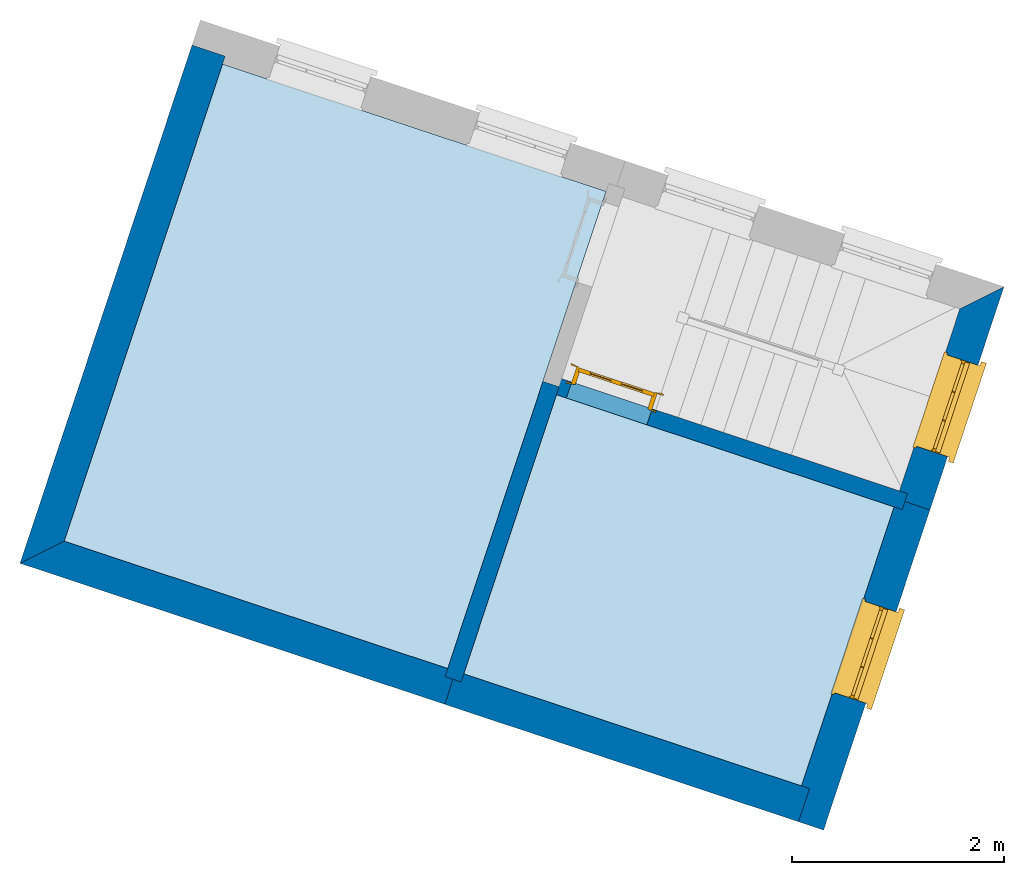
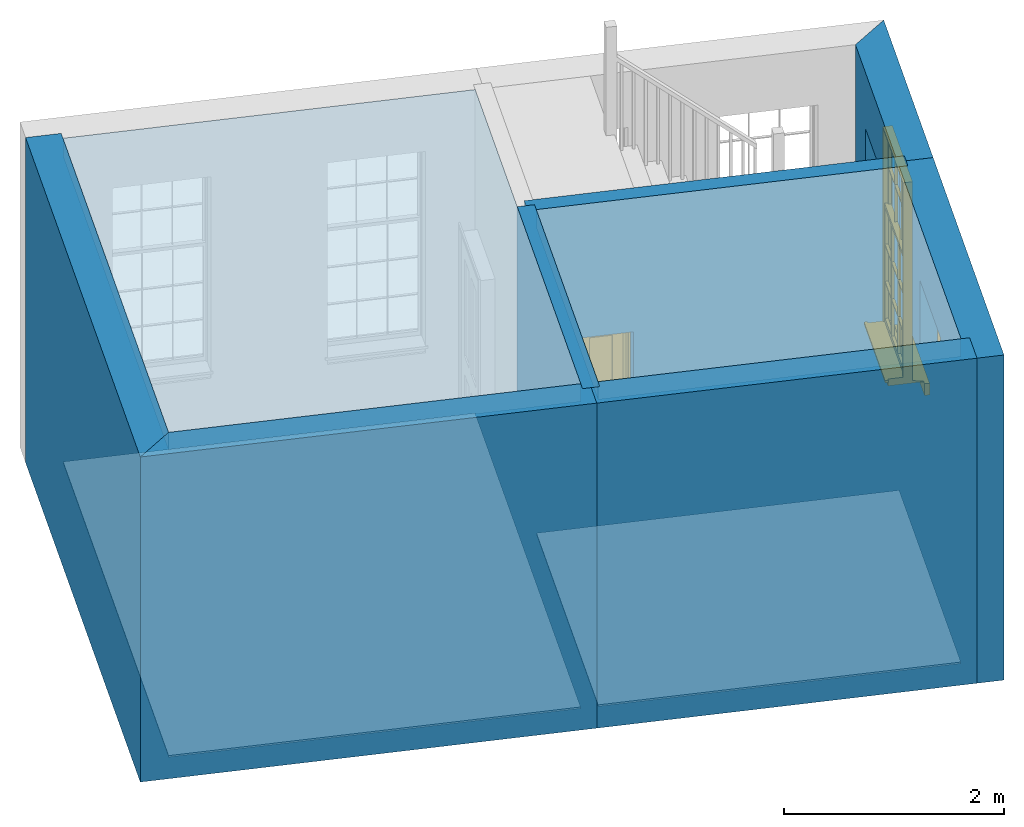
# One storey, part 1 of 2: 7 walls, 4 slabs, 2 windows, 1 door, 3 openings.
"""IFC4 building model written with IfcOpenShell, lengths in metres."""

from ifc_helpers import new_model, si_unit, frame, origin, origin_with_axes, place, context, subcontext, project, spatial, polyline, outline, extrude, faceted_brep, source, transform, mapped, material, layer, layer_set, layer_usage, type_object, type_shapes, element, fill, save


model = new_model("IFC4")

# Units and contexts
model_context = context("Model", 3, world=origin_with_axes())
body_context = subcontext(model_context, "Body", "Model", "MODEL_VIEW")
ifc_project = project(units=[si_unit("PLANEANGLEUNIT", "RADIAN"), si_unit("MASSUNIT", "GRAM", prefix="KILO"), si_unit("FORCEUNIT", "NEWTON", prefix="KILO"), si_unit("LENGTHUNIT", "METRE"), si_unit("AREAUNIT", "SQUARE_METRE"), si_unit("VOLUMEUNIT", "CUBIC_METRE")], contexts=[model_context, model_context])

# Sites, building, storey
site_1_placement = place(None, origin_with_axes())
site_1 = spatial("IfcSite", under=ifc_project, at=site_1_placement, Name="Tamar")
site_2_placement = place(site_1_placement, origin_with_axes())
site_2 = spatial("IfcSite", under=site_1, at=site_2_placement, Name="Site plot-17", CompositionType="ELEMENT")
building_placement = place(None, origin_with_axes())
building = spatial("IfcBuilding", under=site_2, at=building_placement, Name="Building plot-17", CompositionType="ELEMENT")
storey_placement = place(None, frame((0.0, 0.0, 30.4), z_axis=(0.0, 0.0, 1.0), x_axis=(1.0, 0.0, 0.0)))
storey = spatial("IfcBuildingStorey", under=building, at=storey_placement, Name="plot-17 1", CompositionType="ELEMENT", Elevation=30.4)

# Slabs
slab_1_placement = place(storey_placement, frame((267.388920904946, 307.511423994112, 3.4)))
element("IfcSlab", 1, at=slab_1_placement, inside=storey, Name="My Slab", ObjectType="Slab", PredefinedType="FLOOR", context=body_context, shape_type="SweptSolid", body=[
    extrude(outline(polyline([(0.0, 0.0), (-1.49607704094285, -4.50704970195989), (2.12764428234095, -5.7099133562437), (3.62372132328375, -1.20286365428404), (0.0, 0.0)])), origin_with_axes(), (0.0, 0.0, 1.0), 0.2),
])
slab_2_placement = place(storey_placement, frame((267.388920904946, 307.511423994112, 0.0)))
element("IfcSlab", 2, at=slab_2_placement, inside=storey, Name="My Slab", ObjectType="Slab", PredefinedType="FLOOR", context=body_context, shape_type="SweptSolid", body=[
    extrude(outline(polyline([(0.0, 0.0), (-1.49607704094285, -4.50704970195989), (2.12764428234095, -5.7099133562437), (3.62372132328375, -1.20286365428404), (0.0, 0.0)])), origin_with_axes(), (0.0, 0.0, 1.0), 0.02),
])
slab_3_placement = place(storey_placement, frame((270.543566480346, 304.38755864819, 3.4)))
element("IfcSlab", 3, at=slab_3_placement, inside=storey, Name="My Slab", ObjectType="Slab", PredefinedType="FLOOR", context=body_context, shape_type="SweptSolid", body=[
    extrude(outline(polyline([(0.0, 0.0), (-0.875148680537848, -2.63645420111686), (2.31551598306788, -3.69556835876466), (3.19066466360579, -1.05911415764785), (0.0, 0.0)])), origin_with_axes(), (0.0, 0.0, 1.0), 0.2),
])
slab_4_placement = place(storey_placement, frame((270.543566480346, 304.38755864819, 0.0)))
element("IfcSlab", 4, at=slab_4_placement, inside=storey, Name="My Slab", ObjectType="Slab", PredefinedType="FLOOR", context=body_context, shape_type="SweptSolid", body=[
    extrude(outline(polyline([(0.0, 0.0), (-0.875148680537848, -2.63645420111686), (2.31551598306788, -3.69556835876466), (3.19066466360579, -1.05911415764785), (0.0, 0.0)])), origin_with_axes(), (0.0, 0.0, 1.0), 0.02),
])

# Wall, opening, window
ifc_material_1 = material(Name="Masonry")
ifc_layer_1 = layer(ifc_material_1, 0.33, ventilated=False)
ifc_layer_set_1 = layer_set([ifc_layer_1], Name="exterior_0.08_0.25")
ifc_layer_usage_1 = layer_usage(ifc_layer_set_1, "AXIS2", "POSITIVE", -0.25)
wall_type_1 = type_object("IfcWallType", Name="exterior_0.08_0.25", PredefinedType="SOLIDWALL", material=ifc_layer_set_1)
wall_1_placement = place(storey_placement, frame((272.909805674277, 300.590860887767, 0.0), z_axis=(0.0, 0.0, 1.0), x_axis=(0.315038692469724, 0.949078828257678, 0.0)))
wall_1 = element("IfcWall", 5, at=wall_1_placement, inside=storey, type_object=wall_type_1, material=ifc_layer_usage_1, Name="exterior", context=body_context, shape_type="SweptSolid", body=[
    extrude(outline(polyline([(-0.249999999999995, 0.0799999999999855), (-0.249999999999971, -0.249999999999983), (2.93790855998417, -0.249999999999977), (2.93790855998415, 0.0799999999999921), (-0.249999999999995, 0.0799999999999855)])), origin_with_axes(), (0.0, 0.0, 1.0), 3.6),
])
opening_1_placement = place(wall_1_placement, frame((1.01395427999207, 0.0, 0.75)))
opening_1 = element("IfcOpeningElement", 6, at=opening_1_placement, cuts=wall_1, Name="My Opening", ObjectType="Opening", context=body_context, shape_type="SweptSolid", body=[
    extrude(outline(polyline([(0.0, -0.270000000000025), (0.909999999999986, -0.270000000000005), (0.910000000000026, 1.10000000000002), (3.99680288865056e-14, 1.1), (0.0, -0.270000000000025)])), origin_with_axes(), (0.0, 0.0, 1.0), 2.23),
])
window_type = type_object("IfcWindowType", Name="sash_big_taller", PartitioningType="DOUBLE_PANEL_HORIZONTAL", PredefinedType="NOTDEFINED")
shared_shape_1 = source(origin(), body_context, "Body", "Brep", [
    faceted_brep([(0.033125, 0.145, 1.385209), (0.01, 0.145, 1.385209), (0.033125, 0.145, 1.786042), (0.876875, 0.145, 1.385209), (0.876875, 0.145, 1.786042), (0.9, 0.145, 1.385209), (0.876875, 0.145, 1.796042), (0.876875, 0.145, 2.196875), (0.9, 0.145, 2.22), (0.033125, 0.145, 2.196875), (0.033125, 0.145, 1.796042), (0.01, 0.145, 2.22), (0.876875, 0.115, 1.786042), (0.876875, 0.115, 1.385209), (0.9, 0.115, 1.347084), (0.033125, 0.115, 2.196875), (0.01, 0.115, 2.22), (0.033125, 0.115, 1.796042), (0.01, 0.115, 1.347084), (0.033125, 0.115, 1.385209), (0.033125, 0.115, 1.786042), (0.876875, 0.115, 2.196875), (0.876875, 0.115, 1.796042), (0.9, 0.115, 2.22), (0.033125, 0.145, 1.347084), (0.01, 0.145, 1.347084), (0.033125, 0.145, 0.94625), (0.876875, 0.145, 1.347084), (0.876875, 0.145, 0.94625), (0.9, 0.145, 1.347084), (0.876875, 0.145, 0.52625), (0.876875, 0.145, 0.125417), (0.9, 0.145, 0.077167), (0.033125, 0.145, 0.125417), (0.033125, 0.145, 0.52625), (0.01, 0.145, 0.077167), (-0.0425, 0.0, 0.01), (-0.0425, -0.05, 0.001667), (0.0, 0.0, 0.01), (0.9525, 0.0, 0.01), (0.91, 0.0, 0.01), (0.9525, -0.05, 0.001667), (-0.02, 0.33, 0.077167), (0.0, 0.33, 0.077167), (-0.02, 0.36, 0.077167), (0.0, 0.19, 0.077167), (0.01, 0.19, 0.077167), (0.91, 0.19, 0.077167), (0.91, 0.33, 0.077167), (0.9, 0.19, 0.077167), (0.93, 0.33, 0.077167), (0.93, 0.36, 0.077167), (0.01, 0.175, 1.385209), (0.9, 0.175, 1.385209), (0.876875, 0.175, 0.125417), (0.876875, 0.175, 0.52625), (0.9, 0.175, 0.077167), (0.876875, 0.175, 0.94625), (0.876875, 0.175, 1.347084), (0.033125, 0.175, 0.125417), (0.01, 0.175, 0.077167), (0.033125, 0.175, 0.52625), (0.033125, 0.175, 1.347084), (0.033125, 0.175, 0.94625), (-0.02, 0.33, 0.052167), (-0.02, 0.36, 0.052167), (0.93, 0.36, 0.052167), (0.93, 0.33, 0.052167), (0.91, 0.33, 0.052167), (0.0, 0.33, 0.052167), (0.91, 0.1, 0.026667), (0.0, 0.1, 0.026667), (-0.0425, -0.05, -0.123333), (0.9525, -0.05, -0.123333), (-0.0425, 0.0, -0.123333), (0.9525, 0.0, -0.123333), (0.01, 0.19, 2.22), (0.9, 0.19, 2.22), (0.0, 0.19, 2.23), (0.91, 0.19, 2.23), (0.01, 0.1, 0.077167), (0.9, 0.1, 0.077167), (0.592292, 0.145, 0.125417), (0.592292, 0.175, 0.125417), (0.317708, 0.175, 0.125417), (0.317708, 0.145, 0.125417), (0.592292, 0.145, 0.53625), (0.317708, 0.145, 0.53625), (0.317708, 0.145, 0.52625), (0.592292, 0.145, 0.52625), (0.592292, 0.175, 0.53625), (0.317708, 0.175, 0.53625), (0.592292, 0.115, 1.796042), (0.592292, 0.145, 1.796042), (0.317708, 0.145, 1.796042), (0.317708, 0.115, 1.796042), (0.317708, 0.115, 1.786042), (0.592292, 0.115, 1.786042), (0.317708, 0.145, 1.786042), (0.592292, 0.145, 1.786042), (0.602292, 0.115, 1.786042), (0.592292, 0.115, 1.385209), (0.602292, 0.115, 1.385209), (0.602292, 0.145, 1.385209), (0.592292, 0.145, 1.385209), (0.602292, 0.145, 1.786042), (0.876875, 0.145, 0.53625), (0.876875, 0.175, 0.53625), (0.602292, 0.175, 0.53625), (0.602292, 0.145, 0.53625), (0.317708, 0.175, 0.52625), (0.307708, 0.175, 0.125417), (0.307708, 0.175, 0.52625), (0.602292, 0.175, 0.52625), (0.602292, 0.175, 0.125417), (0.592292, 0.175, 0.52625), (0.307708, 0.175, 0.53625), (0.033125, 0.175, 0.53625), (0.317708, 0.175, 1.347084), (0.317708, 0.175, 0.94625), (0.307708, 0.175, 0.94625), (0.307708, 0.175, 1.347084), (0.602292, 0.175, 1.347084), (0.602292, 0.175, 0.94625), (0.592292, 0.175, 0.94625), (0.592292, 0.175, 1.347084), (0.307708, 0.145, 0.52625), (0.307708, 0.145, 0.125417), (0.307708, 0.145, 0.53625), (0.033125, 0.145, 0.53625), (0.307708, 0.145, 1.347084), (0.307708, 0.145, 0.94625), (0.592292, 0.145, 1.347084), (0.592292, 0.145, 0.94625), (0.317708, 0.145, 0.94625), (0.317708, 0.145, 1.347084), (0.602292, 0.145, 0.94625), (0.602292, 0.145, 1.347084), (0.602292, 0.145, 0.52625), (0.602292, 0.145, 0.125417), (0.307708, 0.115, 1.796042), (0.307708, 0.115, 1.786042), (0.307708, 0.115, 1.385209), (0.317708, 0.115, 1.385209), (0.317708, 0.115, 2.196875), (0.307708, 0.115, 2.196875), (0.602292, 0.115, 2.196875), (0.592292, 0.115, 2.196875), (0.602292, 0.115, 1.796042), (0.602292, 0.145, 1.796042), (0.307708, 0.145, 1.796042), (0.307708, 0.145, 2.196875), (0.317708, 0.145, 2.196875), (0.592292, 0.145, 2.196875), (0.602292, 0.145, 2.196875), (0.307708, 0.145, 1.786042), (0.317708, 0.145, 1.385209), (0.307708, 0.145, 1.385209), (0.876875, 0.175, 0.93625), (0.033125, 0.175, 0.93625), (0.033125, 0.145, 0.93625), (0.876875, 0.145, 0.93625), (0.91, 0.1, 2.23), (0.9, 0.1, 2.22), (0.01, 0.1, 2.22), (0.0, 0.1, 2.23), (0.91, 0.0, 0.0), (0.0, 0.0, 0.0), (0.91, 0.33, 0.0), (0.0, 0.33, 0.0), (0.317708, 0.145, 0.93625), (0.592292, 0.145, 0.93625), (0.317708, 0.175, 0.93625), (0.307708, 0.175, 0.93625), (0.602292, 0.175, 0.93625), (0.592292, 0.175, 0.93625), (0.307708, 0.145, 0.93625), (0.602292, 0.145, 0.93625)], [[[0, 1, 2]], [[3, 4, 5]], [[6, 7, 8]], [[9, 10, 11]], [[12, 13, 14]], [[15, 16, 17]], [[18, 19, 20]], [[21, 22, 23]], [[24, 25, 26]], [[27, 28, 29]], [[30, 31, 32]], [[33, 34, 35]], [[14, 27, 29]], [[25, 24, 18]], [[36, 37, 38]], [[39, 40, 41]], [[42, 43, 44]], [[45, 46, 43]], [[47, 48, 49]], [[50, 51, 48]], [[1, 0, 52]], [[5, 53, 3]], [[54, 55, 56]], [[57, 58, 53]], [[59, 60, 61]], [[62, 63, 52]], [[48, 43, 46, 49]], [[51, 44, 43, 48]], [[64, 42, 44, 65]], [[65, 44, 51, 66]], [[66, 51, 50, 67]], [[65, 66, 68, 69]], [[60, 56, 49, 46]], [[70, 71, 38, 40]], [[37, 41, 40, 38]], [[37, 72, 73, 41]], [[74, 75, 73, 72]], [[8, 11, 76, 77]], [[76, 78, 79, 77]], [[32, 35, 80, 81]], [[81, 80, 71, 70]], [[82, 83, 84, 85]], [[86, 87, 88, 89]], [[86, 90, 91, 87]], [[92, 93, 94, 95]], [[92, 95, 96, 97]], [[96, 98, 99, 97]], [[100, 97, 101, 102]], [[103, 104, 99, 105]], [[97, 99, 104, 101]], [[102, 103, 105, 100]], [[106, 107, 108, 109]], [[110, 84, 111, 112]], [[113, 114, 83, 115]], [[116, 112, 61, 117]], [[90, 115, 110, 91]], [[118, 119, 120, 121]], [[122, 123, 124, 125]], [[113, 108, 107, 55]], [[126, 112, 111, 127]], [[34, 61, 112, 126]], [[89, 115, 83, 82]], [[88, 110, 115, 89]], [[85, 84, 110, 88]], [[128, 116, 117, 129]], [[130, 121, 120, 131]], [[132, 125, 124, 133]], [[134, 119, 118, 135]], [[136, 123, 122, 137]], [[138, 113, 55, 30]], [[139, 114, 113, 138]], [[138, 30, 106, 109]], [[88, 126, 127, 85]], [[138, 89, 82, 139]], [[137, 132, 133, 136]], [[128, 129, 34, 126]], [[135, 130, 131, 134]], [[140, 17, 20, 141]], [[96, 141, 142, 143]], [[144, 145, 140, 95]], [[146, 147, 92, 148]], [[100, 12, 22, 148]], [[149, 6, 4, 105]], [[94, 150, 151, 152]], [[149, 93, 153, 154]], [[99, 98, 94, 93]], [[155, 2, 10, 150]], [[156, 157, 155, 98]], [[141, 155, 157, 142]], [[20, 2, 155, 141]], [[143, 156, 98, 96]], [[140, 150, 10, 17]], [[145, 151, 150, 140]], [[147, 153, 93, 92]], [[95, 94, 152, 144]], [[22, 6, 149, 148]], [[148, 149, 154, 146]], [[100, 105, 4, 12]], [[109, 86, 89, 138]], [[108, 113, 115, 90]], [[91, 110, 112, 116]], [[87, 128, 126, 88]], [[97, 100, 148, 92]], [[141, 96, 95, 140]], [[98, 155, 150, 94]], [[105, 99, 93, 149]], [[143, 101, 104, 156]], [[135, 118, 125, 132]], [[144, 152, 153, 147]], [[127, 111, 59, 33]], [[15, 9, 151, 145]], [[146, 154, 7, 21]], [[31, 54, 114, 139]], [[36, 74, 72, 37]], [[39, 41, 73, 75]], [[18, 14, 101, 143]], [[23, 16, 144, 147]], [[83, 56, 60, 84]], [[52, 53, 125, 118]], [[53, 52, 156, 104]], [[11, 8, 153, 152]], [[14, 18, 135, 132]], [[2, 1, 11, 10]], [[8, 5, 4, 6]], [[57, 53, 56, 158]], [[60, 52, 63, 159]], [[26, 25, 35, 160]], [[32, 29, 28, 161]], [[14, 23, 22, 12]], [[18, 20, 17, 16]], [[19, 0, 2, 20]], [[17, 10, 9, 15]], [[12, 4, 3, 13]], [[21, 7, 6, 22]], [[27, 58, 57, 28]], [[30, 55, 54, 31]], [[33, 59, 61, 34]], [[26, 63, 62, 24]], [[5, 8, 77, 53]], [[76, 11, 1, 52]], [[46, 45, 78, 76]], [[49, 77, 79, 47]], [[70, 162, 163, 81]], [[71, 80, 164, 165]], [[19, 142, 157, 0]], [[102, 13, 3, 103]], [[121, 130, 24, 62]], [[29, 32, 81, 14]], [[80, 35, 25, 18]], [[60, 46, 76, 52]], [[77, 49, 56, 53]], [[23, 14, 81, 163]], [[16, 164, 80, 18]], [[35, 85, 127]], [[127, 33, 35]], [[139, 82, 32]], [[32, 31, 139]], [[32, 82, 85, 35]], [[102, 101, 14]], [[14, 13, 102]], [[18, 143, 142]], [[142, 19, 18]], [[146, 21, 23]], [[23, 147, 146]], [[16, 15, 145]], [[145, 144, 16]], [[11, 152, 151]], [[151, 9, 11]], [[154, 153, 8]], [[8, 7, 154]], [[23, 163, 164, 16]], [[162, 165, 164, 163]], [[52, 118, 121]], [[121, 62, 52]], [[125, 53, 122]], [[58, 122, 53]], [[27, 137, 122, 58]], [[56, 83, 114]], [[114, 54, 56]], [[111, 84, 60]], [[60, 59, 111]], [[137, 27, 14]], [[14, 132, 137]], [[130, 135, 18]], [[18, 24, 130]], [[157, 156, 52]], [[52, 0, 157]], [[103, 3, 53]], [[53, 104, 103]], [[79, 78, 165, 162]], [[78, 45, 71, 165]], [[162, 70, 47, 79]], [[166, 75, 74, 167]], [[68, 66, 67]], [[48, 68, 67, 50]], [[69, 64, 65]], [[42, 64, 69, 43]], [[69, 68, 168, 169]], [[70, 68, 48, 47]], [[166, 168, 68, 70]], [[43, 69, 71, 45]], [[69, 169, 167, 71]], [[168, 166, 167, 169]], [[38, 167, 74, 36]], [[71, 167, 38]], [[39, 75, 166, 40]], [[40, 166, 70]], [[133, 134, 170, 171]], [[133, 124, 119, 134]], [[28, 57, 123, 136]], [[172, 91, 116, 173]], [[174, 108, 90, 175]], [[120, 173, 159, 63]], [[124, 175, 172, 119]], [[174, 123, 57, 158]], [[176, 173, 116, 128]], [[160, 159, 173, 176]], [[171, 175, 90, 86]], [[170, 172, 175, 171]], [[87, 91, 172, 170]], [[131, 120, 63, 26]], [[177, 174, 158, 161]], [[109, 108, 174, 177]], [[177, 161, 28, 136]], [[170, 176, 128, 87]], [[177, 171, 86, 109]], [[131, 26, 160, 176]], [[136, 133, 171, 177]], [[123, 174, 175, 124]], [[119, 172, 173, 120]], [[134, 131, 176, 170]], [[129, 117, 159, 160]], [[161, 158, 107, 106]], [[35, 34, 129]], [[35, 129, 160]], [[32, 106, 30]], [[32, 161, 106]], [[56, 55, 107]], [[56, 107, 158]], [[60, 117, 61]], [[60, 159, 117]]]),
])
type_shapes(window_type, [shared_shape_1])
window_1_placement = place(storey_placement, frame((273.485491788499, 301.468122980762, 0.75), z_axis=(0.0, 0.0, 1.0), x_axis=(0.286685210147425, 0.86366173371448, 0.0)))
window_1 = element("IfcWindow", 7, at=window_1_placement, inside=storey, type_object=window_type, Name="toilet outside window", OverallHeight=2.23, OverallWidth=0.91, context=body_context, shape_type="MappedRepresentation", body=[
    mapped(shared_shape_1, transform((0.0, 0.0, 0.0), scale=1.0)),
])
fill(opening_1, window_1)

wall_2_placement = place(storey_placement, frame((273.83536054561, 303.379167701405, 0.0), z_axis=(0.0, 0.0, 1.0), x_axis=(0.315038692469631, 0.949078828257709, 0.0)))
wall_2 = element("IfcWall", 8, at=wall_2_placement, inside=storey, type_object=wall_type_1, material=ifc_layer_usage_1, Name="exterior", context=body_context, shape_type="SweptSolid", body=[
    extrude(outline(polyline([(-1.07242967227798e-14, 0.0799999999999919), (-1.81368383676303e-14, -0.249999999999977), (2.2209590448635, -0.249999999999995), (1.89095904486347, 0.0800000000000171), (-1.07242967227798e-14, 0.0799999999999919)])), origin_with_axes(), (0.0, 0.0, 1.0), 3.6),
])
opening_2_placement = place(wall_2_placement, frame((0.530479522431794, 0.0, 0.75)))
opening_2 = element("IfcOpeningElement", 9, at=opening_2_placement, cuts=wall_2, Name="My Opening", ObjectType="Opening", context=body_context, shape_type="SweptSolid", body=[
    extrude(outline(polyline([(0.0, -0.26999999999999), (0.909999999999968, -0.270000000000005), (0.909999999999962, 1.10000000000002), (-6.10622663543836e-15, 1.10000000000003), (0.0, -0.26999999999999)])), origin_with_axes(), (0.0, 0.0, 1.0), 2.23),
])
window_2_placement = place(storey_placement, frame((274.258733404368, 303.797574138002, 0.75), z_axis=(0.0, 0.0, 1.0), x_axis=(0.286685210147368, 0.86366173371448, 0.0)))
window_2 = element("IfcWindow", 10, at=window_2_placement, inside=storey, type_object=window_type, Name="circulation outside window", OverallHeight=2.23, OverallWidth=0.91, context=body_context, shape_type="MappedRepresentation", body=[
    mapped(shared_shape_1, transform((0.0, 0.0, 0.0), scale=1.0)),
])
fill(opening_2, window_2)

# Walls
ifc_material_2 = material(Name="Masonry")
ifc_layer_2 = layer(ifc_material_2, 0.33, ventilated=False)
ifc_layer_set_2 = layer_set([ifc_layer_2], Name="party_0.08_0.25")
ifc_layer_usage_2 = layer_usage(ifc_layer_set_2, "AXIS2", "POSITIVE", -0.25)
wall_type_2 = type_object("IfcWallType", Name="party_0.08_0.25", PredefinedType="SOLIDWALL", material=ifc_layer_set_2)
wall_3_placement = place(storey_placement, frame((267.338197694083, 307.61255339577, 0.0), z_axis=(0.0, 0.0, 1.0), x_axis=(-0.315038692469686, -0.94907882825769, 0.0)))
element("IfcWall", 11, at=wall_3_placement, inside=storey, type_object=wall_type_2, material=ifc_layer_usage_2, Name="party", context=body_context, shape_type="SweptSolid", body=[
    extrude(outline(polyline([(-1.54334731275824e-14, 0.0799999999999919), (-3.53740559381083e-15, -0.249999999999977), (5.15886760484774, -0.249999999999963), (4.82886760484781, 0.0800000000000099), (-1.54334731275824e-14, 0.0799999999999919)])), origin_with_axes(), (0.0, 0.0, 1.0), 3.6),
])
wall_4_placement = place(storey_placement, frame((265.791714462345, 302.953651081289, 0.0), z_axis=(0.0, 0.0, 1.0), x_axis=(0.949078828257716, -0.315038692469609, 0.0)))
element("IfcWall", 12, at=wall_4_placement, inside=storey, type_object=wall_type_2, material=ifc_layer_usage_2, Name="party", context=body_context, shape_type="SweptSolid", body=[
    extrude(outline(polyline([(0.0800000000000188, 0.0799999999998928), (-0.249999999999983, -0.250000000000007), (3.97814578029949, -0.250000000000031), (3.97814578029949, 0.079999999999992), (0.0800000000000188, 0.0799999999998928)])), origin_with_axes(), (0.0, 0.0, 1.0), 3.6),
])
wall_5_placement = place(storey_placement, frame((269.56728839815, 301.70038123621, 0.0), z_axis=(0.0, 0.0, 1.0), x_axis=(0.949078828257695, -0.315038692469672, 0.0)))
element("IfcWall", 13, at=wall_5_placement, inside=storey, type_object=wall_type_2, material=ifc_layer_usage_2, Name="party", context=body_context, shape_type="SweptSolid", body=[
    extrude(outline(polyline([(-1.4170428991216e-14, 0.0799999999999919), (1.06122167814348e-14, -0.250000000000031), (3.52185421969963, -0.249999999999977), (3.52185421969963, 0.0799999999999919), (-1.4170428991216e-14, 0.0799999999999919)])), origin_with_axes(), (0.0, 0.0, 1.0), 3.6),
])
ifc_material_3 = material(Name="Masonry")
ifc_layer_3 = layer(ifc_material_3, 0.16, ventilated=False)
ifc_layer_set_3 = layer_set([ifc_layer_3], Name="interior_0.08_0.08")
ifc_layer_usage_3 = layer_usage(ifc_layer_set_3, "AXIS2", "POSITIVE", -0.08)
wall_type_3 = type_object("IfcWallType", Name="interior_0.08_0.08", PredefinedType="SOLIDWALL", material=ifc_layer_set_3)
wall_6_placement = place(storey_placement, frame((270.492843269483, 304.488688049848, 0.0), z_axis=(0.0, 0.0, 1.0), x_axis=(-0.3150386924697, -0.949078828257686, 0.0)))
element("IfcWall", 14, at=wall_6_placement, inside=storey, type_object=wall_type_3, material=ifc_layer_usage_3, Name="interior", context=body_context, shape_type="SweptSolid", body=[
    extrude(outline(polyline([(-1.66413957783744e-14, 0.0799999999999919), (1.65960714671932e-14, -0.0799999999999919), (2.93790855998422, -0.0799999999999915), (2.93790855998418, 0.0799999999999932), (-1.66413957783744e-14, 0.0799999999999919)])), origin_with_axes(), (0.0, 0.0, 1.0), 3.6),
])

# Wall, opening, door
wall_7_placement = place(storey_placement, frame((270.492843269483, 304.488688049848, 0.0), z_axis=(0.0, 0.0, 1.0), x_axis=(0.949078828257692, -0.315038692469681, 0.0)))
wall_7 = element("IfcWall", 15, at=wall_7_placement, inside=storey, type_object=wall_type_3, material=ifc_layer_usage_3, Name="interior", context=body_context, shape_type="SweptSolid", body=[
    extrude(outline(polyline([(-1.498755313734e-14, 0.0799999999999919), (1.49777559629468e-14, -0.0799999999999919), (3.52185421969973, -0.079999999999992), (3.5218542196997, 0.0799999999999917), (-1.498755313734e-14, 0.0799999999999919)])), origin_with_axes(), (0.0, 0.0, 1.0), 3.6),
])
opening_3_placement = place(wall_7_placement, frame((0.180000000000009, 0.0, 0.0199999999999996)))
opening_3 = element("IfcOpeningElement", 16, at=opening_3_placement, cuts=wall_7, Name="My Opening", ObjectType="Opening", context=body_context, shape_type="SweptSolid", body=[
    extrude(outline(polyline([(0.0, -0.100000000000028), (0.799999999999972, -0.10000000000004), (0.799999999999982, 1.10000000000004), (9.27036225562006e-15, 1.10000000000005), (0.0, -0.100000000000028)])), origin_with_axes(), (0.0, 0.0, 1.0), 2.1),
])
door_type = type_object("IfcDoorType", Name="door_inside", OperationType="SINGLE_SWING_LEFT", PredefinedType="NOTDEFINED")
shared_shape_2 = source(origin(), body_context, "Body", "Brep", [
    faceted_brep([(0.773, 0.33, 1.895), (0.66, 0.33, 1.895), (0.66, 0.33, 2.073), (0.773, 0.33, 2.073), (0.773, 0.33, 0.82), (0.66, 0.33, 0.82), (0.45, 0.33, 1.895), (0.45, 0.33, 2.073), (0.773, 0.33, 0.62), (0.66, 0.33, 0.62), (0.66, 0.315, 0.82), (0.66, 0.315, 1.895), (0.45, 0.315, 1.895), (0.35, 0.33, 1.895), (0.35, 0.33, 2.073), (0.773, 0.33, 0.225), (0.66, 0.33, 0.225), (0.45, 0.33, 0.62), (0.45, 0.33, 0.82), (0.45, 0.315, 0.82), (0.35, 0.33, 0.82), (0.14, 0.33, 2.073), (0.14, 0.33, 1.895), (0.773, 0.33, 0.0), (0.66, 0.33, 0.0), (0.66, 0.315, 0.225), (0.66, 0.315, 0.62), (0.45, 0.315, 0.62), (0.35, 0.33, 0.62), (0.35, 0.315, 0.82), (0.35, 0.315, 1.895), (0.14, 0.315, 1.895), (0.027, 0.33, 2.073), (0.027, 0.33, 1.895), (0.773, 0.292, 0.0), (0.66, 0.292, 0.0), (0.45, 0.33, 0.0), (0.45, 0.33, 0.225), (0.45, 0.315, 0.225), (0.35, 0.33, 0.225), (0.14, 0.33, 0.82), (0.14, 0.33, 0.62), (0.14, 0.315, 0.82), (0.027, 0.33, 0.82), (0.773, 0.292, 0.225), (0.66, 0.292, 0.225), (0.45, 0.292, 0.0), (0.35, 0.33, 0.0), (0.35, 0.315, 0.225), (0.35, 0.315, 0.62), (0.14, 0.315, 0.62), (0.027, 0.33, 0.62), (0.773, 0.292, 0.62), (0.66, 0.292, 0.62), (0.45, 0.292, 0.225), (0.35, 0.292, 0.0), (0.14, 0.33, 0.225), (0.14, 0.33, 0.0), (0.14, 0.315, 0.225), (0.027, 0.33, 0.225), (0.773, 0.292, 0.82), (0.66, 0.292, 0.82), (0.66, 0.307, 0.62), (0.66, 0.307, 0.225), (0.45, 0.307, 0.225), (0.35, 0.292, 0.225), (0.14, 0.292, 0.0), (0.027, 0.33, 0.0), (0.773, 0.292, 1.895), (0.66, 0.292, 1.895), (0.45, 0.292, 0.62), (0.45, 0.292, 0.82), (0.45, 0.307, 0.62), (0.35, 0.292, 0.62), (0.14, 0.292, 0.225), (0.027, 0.292, 0.0), (0.773, 0.292, 2.073), (0.66, 0.292, 2.073), (0.66, 0.307, 1.895), (0.66, 0.307, 0.82), (0.45, 0.307, 0.82), (0.35, 0.292, 0.82), (0.35, 0.307, 0.62), (0.35, 0.307, 0.225), (0.14, 0.307, 0.225), (0.027, 0.292, 0.225), (0.45, 0.292, 1.895), (0.45, 0.292, 2.073), (0.45, 0.307, 1.895), (0.35, 0.292, 1.895), (0.14, 0.292, 0.82), (0.14, 0.292, 0.62), (0.14, 0.307, 0.62), (0.027, 0.292, 0.62), (0.35, 0.292, 2.073), (0.35, 0.307, 1.895), (0.35, 0.307, 0.82), (0.14, 0.307, 0.82), (0.027, 0.292, 0.82), (0.14, 0.292, 2.073), (0.14, 0.292, 1.895), (0.14, 0.307, 1.895), (0.027, 0.292, 1.895), (0.027, 0.292, 2.073), (0.02, 0.335, 0.0), (0.005, 0.34, 0.0), (0.005, 0.34, 2.095), (0.02, 0.335, 2.08), (0.02, 0.33, 0.0), (0.0, 0.335, 0.0), (0.0, 0.335, 2.1), (0.795, 0.34, 2.095), (0.78, 0.335, 2.08), (0.02, 0.33, 2.08), (0.0, 0.33, 0.0), (-0.032, 0.345, 0.0), (-0.032, 0.345, 2.132), (0.8, 0.335, 2.1), (0.795, 0.34, 0.0), (0.78, 0.335, 0.0), (0.78, 0.33, 2.08), (0.04, 0.29, 0.0), (0.025, 0.29, 0.0), (0.025, 0.29, 2.075), (0.04, 0.29, 2.06), (-0.04, 0.34, 0.0), (-0.04, 0.34, 2.14), (0.832, 0.345, 2.132), (0.8, 0.335, 0.0), (0.78, 0.33, 0.0), (0.8, 0.33, 0.0), (0.86, 0.33, 0.0), (0.86, 0.33, 2.16), (0.8, 0.33, 2.1), (-0.06, 0.33, 2.16), (0.0, 0.33, 2.1), (-0.06, 0.33, 0.0), (-0.04, 0.345, 0.0), (-0.04, 0.345, 2.14), (0.84, 0.34, 2.14), (0.832, 0.345, 0.0), (0.84, 0.34, 0.0), (0.86, 0.345, 0.0), (0.86, 0.345, 2.16), (-0.06, 0.345, 2.16), (-0.06, 0.345, 0.0), (0.84, 0.345, 0.0), (0.84, 0.345, 2.14), (-0.025, 0.155, 0.0), (-0.025, 0.16, 0.0), (-0.025, 0.16, 2.125), (-0.025, 0.155, 2.125), (-0.017, 0.155, 0.0), (-0.017, 0.155, 2.117), (0.825, 0.16, 2.125), (0.825, 0.155, 2.125), (0.825, 0.155, 0.0), (0.845, 0.155, 0.0), (-0.045, 0.155, 2.145), (-0.045, 0.155, 0.0), (0.845, 0.155, 2.145), (0.015, 0.165, 0.0), (0.015, 0.165, 2.085), (0.817, 0.155, 2.117), (0.825, 0.16, 0.0), (0.845, 0.17, 0.0), (0.845, 0.17, 2.145), (-0.045, 0.17, 2.145), (-0.045, 0.17, 0.0), (0.02, 0.16, 0.0), (0.02, 0.16, 2.08), (0.785, 0.165, 2.085), (0.817, 0.155, 0.0), (0.8, 0.17, 0.0), (0.8, 0.17, 2.1), (0.0, 0.17, 2.1), (0.0, 0.17, 0.0), (0.035, 0.165, 0.0), (0.035, 0.165, 2.065), (0.78, 0.16, 2.08), (0.785, 0.165, 0.0), (0.775, 0.29, 2.075), (0.76, 0.29, 2.06), (0.035, 0.17, 2.065), (0.035, 0.17, 0.0), (0.765, 0.165, 2.065), (0.78, 0.16, 0.0), (0.765, 0.17, 0.0), (0.765, 0.17, 2.065), (0.765, 0.165, 0.0), (0.04, 0.17, 2.06), (0.04, 0.17, 0.0), (0.76, 0.17, 2.06), (0.76, 0.17, 0.0), (0.76, 0.29, 0.0), (0.775, 0.29, 0.0), (0.025, 0.33, 0.0), (0.025, 0.33, 2.075), (0.775, 0.33, 0.0), (0.775, 0.33, 2.075)], [[[0, 1, 2, 3]], [[1, 0, 4, 5]], [[1, 6, 7, 2]], [[8, 9, 5, 4]], [[1, 5, 10, 11]], [[6, 1, 11, 12]], [[6, 13, 14, 7]], [[15, 16, 9, 8]], [[9, 17, 18, 5]], [[5, 18, 19, 10]], [[10, 19, 12, 11]], [[18, 6, 12, 19]], [[18, 20, 13, 6]], [[21, 14, 13, 22]], [[23, 24, 16, 15]], [[9, 16, 25, 26]], [[17, 9, 26, 27]], [[17, 28, 20, 18]], [[13, 20, 29, 30]], [[22, 13, 30, 31]], [[32, 21, 22, 33]], [[34, 35, 24, 23]], [[24, 36, 37, 16]], [[16, 37, 38, 25]], [[25, 38, 27, 26]], [[37, 17, 27, 38]], [[37, 39, 28, 17]], [[40, 20, 28, 41]], [[20, 40, 42, 29]], [[31, 30, 29, 42]], [[40, 22, 31, 42]], [[33, 22, 40, 43]], [[35, 34, 44, 45]], [[35, 46, 36, 24]], [[36, 47, 39, 37]], [[28, 39, 48, 49]], [[41, 28, 49, 50]], [[43, 40, 41, 51]], [[45, 44, 52, 53]], [[46, 35, 45, 54]], [[46, 55, 47, 36]], [[56, 39, 47, 57]], [[39, 56, 58, 48]], [[50, 49, 48, 58]], [[56, 41, 50, 58]], [[51, 41, 56, 59]], [[53, 52, 60, 61]], [[45, 53, 62, 63]], [[54, 45, 63, 64]], [[55, 46, 54, 65]], [[55, 66, 57, 47]], [[59, 56, 57, 67]], [[61, 60, 68, 69]], [[70, 53, 61, 71]], [[53, 70, 72, 62]], [[72, 64, 63, 62]], [[70, 54, 64, 72]], [[65, 54, 70, 73]], [[65, 74, 66, 55]], [[67, 57, 66, 75]], [[69, 68, 76, 77]], [[61, 69, 78, 79]], [[71, 61, 79, 80]], [[73, 70, 71, 81]], [[65, 73, 82, 83]], [[74, 65, 83, 84]], [[74, 85, 75, 66]], [[86, 69, 77, 87]], [[69, 86, 88, 78]], [[88, 80, 79, 78]], [[86, 71, 80, 88]], [[81, 71, 86, 89]], [[73, 81, 90, 91]], [[73, 91, 92, 82]], [[83, 82, 92, 84]], [[91, 74, 84, 92]], [[91, 93, 85, 74]], [[89, 86, 87, 94]], [[81, 89, 95, 96]], [[90, 81, 96, 97]], [[90, 98, 93, 91]], [[94, 99, 100, 89]], [[89, 100, 101, 95]], [[101, 97, 96, 95]], [[100, 90, 97, 101]], [[100, 102, 98, 90]], [[99, 103, 102, 100]], [[32, 103, 99, 21]], [[102, 103, 32, 33]], [[98, 102, 33, 43]], [[21, 99, 94, 14]], [[94, 87, 7, 14]], [[7, 87, 77, 2]], [[76, 3, 2, 77]], [[43, 51, 93, 98]], [[51, 59, 85, 93]], [[67, 75, 85, 59]], [[34, 23, 15, 44]], [[44, 15, 8, 52]], [[52, 8, 4, 60]], [[0, 68, 60, 4]], [[0, 3, 76, 68]], [[104, 105, 106, 107]], [[104, 108, 109, 105]], [[105, 109, 110, 106]], [[107, 106, 111, 112]], [[107, 113, 108, 104]], [[114, 109, 108]], [[109, 115, 116, 110]], [[106, 110, 117, 111]], [[112, 111, 118, 119]], [[113, 107, 112, 120]], [[121, 122, 123, 124]], [[115, 109, 114, 125]], [[115, 125, 126, 116]], [[110, 116, 127, 117]], [[111, 117, 128, 118]], [[118, 128, 129, 119]], [[120, 112, 119, 129]], [[130, 129, 128]], [[130, 131, 132, 133]], [[133, 132, 134, 135]], [[135, 134, 136, 114]], [[136, 125, 114]], [[125, 137, 138, 126]], [[116, 126, 139, 127]], [[117, 127, 140, 128]], [[141, 130, 128, 140]], [[131, 130, 141]], [[131, 142, 143, 132]], [[132, 143, 144, 134]], [[134, 144, 145, 136]], [[137, 125, 136, 145]], [[143, 142, 146]], [[143, 146, 147]], [[137, 145, 144]], [[143, 147, 138]], [[138, 137, 144]], [[143, 138, 144]], [[126, 138, 147, 139]], [[127, 139, 141, 140]], [[142, 131, 141, 146]], [[139, 147, 146, 141]], [[148, 149, 150, 151]], [[149, 152, 153, 150]], [[151, 150, 154, 155]], [[155, 156, 157]], [[158, 159, 148]], [[158, 148, 151]], [[155, 157, 160]], [[158, 151, 155]], [[155, 160, 158]], [[152, 161, 162, 153]], [[150, 153, 163, 154]], [[155, 154, 164, 156]], [[156, 164, 165, 157]], [[157, 165, 166, 160]], [[160, 166, 167, 158]], [[158, 167, 168, 159]], [[161, 169, 170, 162]], [[153, 162, 171, 163]], [[154, 163, 172, 164]], [[165, 164, 173]], [[165, 173, 174, 166]], [[166, 174, 175, 167]], [[167, 175, 176, 168]], [[169, 177, 178, 170]], [[162, 170, 179, 171]], [[163, 171, 180, 172]], [[172, 180, 173, 164]], [[124, 123, 181, 182]], [[183, 178, 177, 184]], [[170, 178, 185, 179]], [[171, 179, 186, 180]], [[187, 173, 180]], [[185, 188, 187, 189]], [[188, 185, 178, 183]], [[179, 185, 189, 186]], [[189, 187, 180, 186]], [[190, 183, 184, 191]], [[192, 188, 183, 190]], [[191, 184, 122, 121]], [[124, 190, 191, 121]], [[193, 187, 188, 192]], [[182, 192, 190, 124]], [[184, 176, 122]], [[194, 195, 187, 193]], [[192, 182, 194, 193]], [[161, 176, 184]], [[114, 108, 122, 176]], [[173, 187, 195]], [[152, 149, 176, 161]], [[169, 161, 184, 177]], [[196, 122, 108]], [[176, 175, 135, 114]], [[173, 195, 129, 130]], [[176, 149, 168]], [[123, 122, 196, 197]], [[196, 108, 113, 197]], [[175, 174, 133, 135]], [[198, 129, 195]], [[133, 174, 173, 130]], [[159, 168, 149, 148]], [[181, 123, 197, 199]], [[197, 113, 120, 199]], [[199, 120, 129, 198]], [[195, 181, 199, 198]], [[195, 194, 182, 181]]]),
])
type_shapes(door_type, [shared_shape_2])
door_placement = place(storey_placement, frame((270.632173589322, 304.337073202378, 0.0199999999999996), z_axis=(0.0, 0.0, 1.0), x_axis=(0.759263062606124, -0.252030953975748, 0.0)))
door = element("IfcDoor", 17, at=door_placement, inside=storey, type_object=door_type, Name="toilet inside door", OverallHeight=2.1, OverallWidth=0.8, context=body_context, shape_type="MappedRepresentation", body=[
    mapped(shared_shape_2, transform((0.0, 0.0, 0.0), scale=1.0)),
])
fill(opening_3, door)

save(model, "model.ifc")
